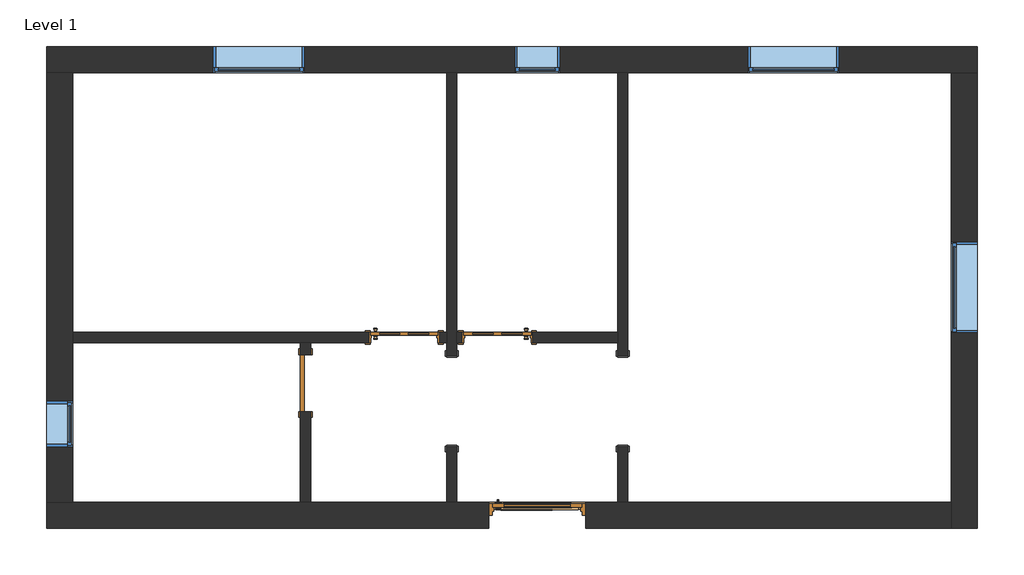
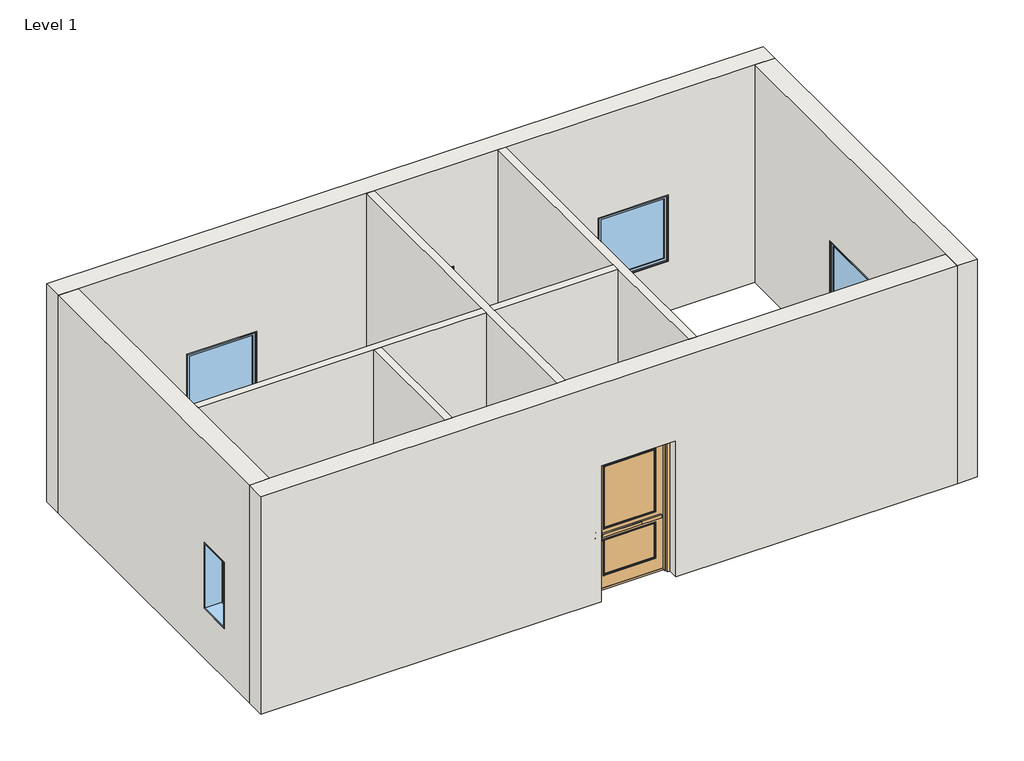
# One storey: 8 walls, 5 windows, 4 doors, 2 proxies.
"""IFC4 building model written with IfcOpenShell, lengths in millimetres."""

from ifc_helpers import new_model, si_unit, frame, origin, place, context, project, spatial, polyline, outline, extrude, faceted_brep, transform, mapped, element, save
from components import m_passage_opening_cased_1220_x_2134_mm_87a8d9c2, m_door_exterior_single_two_lite_1200_x_2400mm_30e12bfc, m_door_interior_single_4_panel_wood_900_x_2100mm_1f4ed184, m_door_interior_single_4_panel_wood_900_x_2100mm_40914eee, m_single_flush_0762_x_2134mm_0d89e411, m_fixed_0610_x_1220mm_2c28ef1d, m_fixed_1220_x_1220_e08ff7af

model = new_model("IFC4")

# Units and contexts
model_context = context("Model", 3, world=origin())
ifc_project = project(units=[si_unit("LENGTHUNIT", "METRE", prefix="MILLI")], contexts=[model_context])

# Site, building, storey
site = spatial("IfcSite", under=ifc_project)
building = spatial("IfcBuilding", under=site)
storey = spatial("IfcBuildingStorey", under=building, Name="Level 1", Elevation=0.0)

# Proxies
placement = place(None, origin())
m_passage_opening_cased_1220_x_2134_mm_shape = m_passage_opening_cased_1220_x_2134_mm_87a8d9c2(model_context)
element("IfcBuildingElementProxy", 1, Name="M_Passage Opening-Cased : 1220 x 2134 mm", ObjectType="M_Passage Opening-Cased : 1220 x 2134 mm", at=placement, inside=storey, context=model_context, shape_type="MappedRepresentation", body=[
    mapped(m_passage_opening_cased_1220_x_2134_mm_shape, transform((-10841.0930086, 9462.255705, 0.0), x_axis=(0.0, 1.0, 0.0), y_axis=(-1.0, 0.0, 0.0), z_axis=(0.0, 0.0, 1.0))),
])
element("IfcBuildingElementProxy", 2, Name="M_Passage Opening-Cased : 1220 x 2134 mm", ObjectType="M_Passage Opening-Cased : 1220 x 2134 mm", at=placement, inside=storey, context=model_context, shape_type="MappedRepresentation", body=[
    mapped(m_passage_opening_cased_1220_x_2134_mm_shape, transform((-13127.0930086, 9445.8783915, 0.0), x_axis=(0.0, -1.0, 0.0), y_axis=(1.0, 0.0, 0.0), z_axis=(0.0, 0.0, 1.0))),
])

# Doors
m_door_exterior_single_two_lite_1200_x_2400mm_shape = m_door_exterior_single_two_lite_1200_x_2400mm_30e12bfc(model_context)
element("IfcDoor", 3, ObjectType="M_Door-Exterior-Single-Two_Lite : 1200 x 2400mm", at=placement, inside=storey, context=model_context, shape_type="MappedRepresentation", body=[
    mapped(m_door_exterior_single_two_lite_1200_x_2400mm_shape, transform((-11984.0930086, 7923.7170483, 0.0), x_axis=(1.0, 0.0, 0.0), y_axis=(0.0, 1.0, 0.0), z_axis=(0.0, 0.0, 1.0))),
])
m_door_interior_single_4_panel_wood_900_x_2100mm_shape = m_door_interior_single_4_panel_wood_900_x_2100mm_1f4ed184(model_context)
element("IfcDoor", 4, ObjectType="M_Door-Interior-Single-4_Panel-Wood : 900 x 2100mm", at=placement, inside=storey, context=model_context, shape_type="MappedRepresentation", body=[
    mapped(m_door_interior_single_4_panel_wood_900_x_2100mm_shape, transform((-12518.0930086, 10309.9920483, 0.0), x_axis=(-1.0, 0.0, 0.0), y_axis=(0.0, -1.0, 0.0), z_axis=(0.0, 0.0, 1.0))),
])
m_door_interior_single_4_panel_wood_900_x_2100mm_2_shape = m_door_interior_single_4_panel_wood_900_x_2100mm_40914eee(model_context)
element("IfcDoor", 5, ObjectType="M_Door-Interior-Single-4_Panel-Wood : 900 x 2100mm", at=placement, inside=storey, context=model_context, shape_type="MappedRepresentation", body=[
    mapped(m_door_interior_single_4_panel_wood_900_x_2100mm_2_shape, transform((-13766.0930086, 10309.9920483, 0.0), x_axis=(1.0, 0.0, 0.0), y_axis=(0.0, 1.0, 0.0), z_axis=(0.0, 0.0, 1.0))),
])
m_single_flush_0762_x_2134mm_shape = m_single_flush_0762_x_2134mm_0d89e411(model_context)
element("IfcDoor", 6, ObjectType="M_Single-Flush : 0762 x 2134mm", at=placement, inside=storey, context=model_context, shape_type="MappedRepresentation", body=[
    mapped(m_single_flush_0762_x_2134mm_shape, transform((-15086.0930086, 9696.8170483, 0.0), x_axis=(0.0, 1.0, 0.0), y_axis=(-1.0, 0.0, 0.0), z_axis=(0.0, 0.0, 1.0))),
])

# Walls
element("IfcWall", 7, ObjectType="Exterior - Brick on Mtl. Stud", at=placement, inside=storey, context=model_context, shape_type="Brep", body=[
    faceted_brep([(-18551.8430086, 13851.0670483, 0.0), (-18201.8430086, 13851.0670483, 0.0), (-13194.8430086, 13851.0670483, 0.0), (-13059.3430086, 13851.0670483, 0.0), (-10908.8430086, 13851.0670483, 0.0), (-10773.3430086, 13851.0670483, 0.0), (-6444.0930086, 13851.0670483, 0.0), (-6094.0930086, 13851.0670483, 0.0), (-6094.0930086, 13851.0670483, 4000.0), (-6444.0930086, 13851.0670483, 4000.0), (-10773.3430086, 13851.0670483, 4000.0), (-10908.8430086, 13851.0670483, 4000.0), (-13059.3430086, 13851.0670483, 4000.0), (-13194.8430086, 13851.0670483, 4000.0), (-18201.8430086, 13851.0670483, 4000.0), (-18551.8430086, 13851.0670483, 4000.0), (-11679.0930086, 13851.0670483, 915.0), (-12289.0930086, 13851.0670483, 915.0), (-12289.0930086, 13851.0670483, 2135.0), (-11679.0930086, 13851.0670483, 2135.0), (-15099.8430086, 13851.0670483, 915.0), (-16319.8430086, 13851.0670483, 915.0), (-16319.8430086, 13851.0670483, 2135.0), (-15099.8430086, 13851.0670483, 2135.0), (-7945.0930086, 13851.0670483, 915.0), (-9165.0930086, 13851.0670483, 915.0), (-9165.0930086, 13851.0670483, 2135.0), (-7945.0930086, 13851.0670483, 2135.0), (-18551.8430086, 14201.0670483, 0.0), (-18551.8430086, 14201.0670483, 4000.0), (-6094.0930086, 14201.0670483, 4000.0), (-6094.0930086, 14201.0670483, 0.0), (-11679.0930086, 14201.0670483, 915.0), (-11679.0930086, 14201.0670483, 2135.0), (-12289.0930086, 14201.0670483, 2135.0), (-12289.0930086, 14201.0670483, 915.0), (-15099.8430086, 14201.0670483, 915.0), (-15099.8430086, 14201.0670483, 2135.0), (-16319.8430086, 14201.0670483, 2135.0), (-16319.8430086, 14201.0670483, 915.0), (-7945.0930086, 14201.0670483, 915.0), (-7945.0930086, 14201.0670483, 2135.0), (-9165.0930086, 14201.0670483, 2135.0), (-9165.0930086, 14201.0670483, 915.0)], [[[0, 1, 2, 3, 4, 5, 6, 7, 8, 9, 10, 11, 12, 13, 14, 15], [16, 17, 18, 19], [20, 21, 22, 23], [24, 25, 26, 27]], [[28, 29, 30, 31], [32, 33, 34, 35], [36, 37, 38, 39], [40, 41, 42, 43]], [[7, 6, 5, 4, 3, 2, 1, 0, 28, 31]], [[15, 14, 13, 12, 11, 10, 9, 8, 30, 29]], [[8, 7, 31, 30]], [[0, 15, 29, 28]], [[33, 32, 16, 19]], [[34, 33, 19, 18]], [[35, 34, 18, 17]], [[32, 35, 17, 16]], [[37, 36, 20, 23]], [[38, 37, 23, 22]], [[39, 38, 22, 21]], [[36, 39, 21, 20]], [[41, 40, 24, 27]], [[42, 41, 27, 26]], [[43, 42, 26, 25]], [[40, 43, 25, 24]]]),
])
element("IfcWall", 8, ObjectType="Exterior - Brick on Mtl. Stud", at=placement, inside=storey, context=model_context, shape_type="Brep", body=[
    faceted_brep([(-6444.0930086, 13851.0670483, 0.0), (-6444.0930086, 8105.0670483, 0.0), (-6444.0930086, 7755.0670483, 0.0), (-6444.0930086, 7755.0670483, 4000.0), (-6444.0930086, 8105.0670483, 4000.0), (-6444.0930086, 13851.0670483, 4000.0), (-6444.0930086, 10368.0670483, 915.0), (-6444.0930086, 11588.0670483, 915.0), (-6444.0930086, 11588.0670483, 2135.0), (-6444.0930086, 10368.0670483, 2135.0), (-6094.0930086, 13851.0670483, 0.0), (-6094.0930086, 13851.0670483, 4000.0), (-6094.0930086, 7755.0670483, 4000.0), (-6094.0930086, 7755.0670483, 0.0), (-6094.0930086, 10368.0670483, 915.0), (-6094.0930086, 10368.0670483, 2135.0), (-6094.0930086, 11588.0670483, 2135.0), (-6094.0930086, 11588.0670483, 915.0)], [[[0, 1, 2, 3, 4, 5], [6, 7, 8, 9]], [[10, 11, 12, 13], [14, 15, 16, 17]], [[2, 1, 0, 10, 13]], [[5, 4, 3, 12, 11]], [[0, 5, 11, 10]], [[3, 2, 13, 12]], [[15, 14, 6, 9]], [[16, 15, 9, 8]], [[17, 16, 8, 7]], [[14, 17, 7, 6]]]),
])
element("IfcWall", 9, ObjectType="Exterior - Brick on Mtl. Stud", at=placement, inside=storey, context=model_context, shape_type="Brep", body=[
    faceted_brep([(-18551.8430086, 8105.0670483, 4000.0), (-18201.8430086, 8105.0670483, 4000.0), (-15153.8430086, 8105.0670483, 4000.0), (-15018.3430086, 8105.0670483, 4000.0), (-13194.8430086, 8105.0670483, 4000.0), (-13059.3430086, 8105.0670483, 4000.0), (-10908.8430086, 8105.0670483, 4000.0), (-10773.3430086, 8105.0670483, 4000.0), (-6444.0930086, 8105.0670483, 4000.0), (-6444.0930086, 8105.0670483, 0.0), (-10773.3430086, 8105.0670483, 0.0), (-10908.8430086, 8105.0670483, 0.0), (-11334.0930086, 8105.0670483, 0.0), (-11334.0930086, 8105.0670483, 2500.0), (-12634.0930086, 8105.0670483, 2500.0), (-12634.0930086, 8105.0670483, 0.0), (-13059.3430086, 8105.0670483, 0.0), (-13194.8430086, 8105.0670483, 0.0), (-15018.3430086, 8105.0670483, 0.0), (-15153.8430086, 8105.0670483, 0.0), (-18201.8430086, 8105.0670483, 0.0), (-18551.8430086, 8105.0670483, 0.0), (-6444.0930086, 7755.0670483, 4000.0), (-18551.8430086, 7755.0670483, 4000.0), (-18551.8430086, 7755.0670483, 0.0), (-12634.0930086, 7755.0670483, 0.0), (-12634.0930086, 7755.0670483, 2500.0), (-11334.0930086, 7755.0670483, 2500.0), (-11334.0930086, 7755.0670483, 0.0), (-6444.0930086, 7755.0670483, 0.0)], [[[0, 1, 2, 3, 4, 5, 6, 7, 8, 9, 10, 11, 12, 13, 14, 15, 16, 17, 18, 19, 20, 21]], [[22, 23, 24, 25, 26, 27, 28, 29]], [[9, 29, 28, 12, 11, 10]], [[24, 21, 20, 19, 18, 17, 16, 15, 25]], [[8, 7, 6, 5, 4, 3, 2, 1, 0, 23, 22]], [[9, 8, 22, 29]], [[0, 21, 24, 23]], [[27, 13, 12, 28]], [[13, 27, 26, 14]], [[14, 26, 25, 15]]]),
])
element("IfcWall", 10, ObjectType="Exterior - Brick on Mtl. Stud", at=placement, inside=storey, context=model_context, shape_type="Brep", body=[
    faceted_brep([(-18201.8430086, 8105.0670483, 0.0), (-18201.8430086, 10239.0670483, 0.0), (-18201.8430086, 10374.5670483, 0.0), (-18201.8430086, 13851.0670483, 0.0), (-18201.8430086, 13851.0670483, 4000.0), (-18201.8430086, 10374.5670483, 4000.0), (-18201.8430086, 10239.0670483, 4000.0), (-18201.8430086, 8105.0670483, 4000.0), (-18201.8430086, 9455.0670483, 915.0), (-18201.8430086, 8845.0670483, 915.0), (-18201.8430086, 8845.0670483, 2135.0), (-18201.8430086, 9455.0670483, 2135.0), (-18551.8430086, 8105.0670483, 0.0), (-18551.8430086, 8105.0670483, 4000.0), (-18551.8430086, 13851.0670483, 4000.0), (-18551.8430086, 13851.0670483, 0.0), (-18551.8430086, 9455.0670483, 915.0), (-18551.8430086, 9455.0670483, 2135.0), (-18551.8430086, 8845.0670483, 2135.0), (-18551.8430086, 8845.0670483, 915.0)], [[[0, 1, 2, 3, 4, 5, 6, 7], [8, 9, 10, 11]], [[12, 13, 14, 15], [16, 17, 18, 19]], [[3, 2, 1, 0, 12, 15]], [[7, 6, 5, 4, 14, 13]], [[0, 7, 13, 12]], [[4, 3, 15, 14]], [[17, 16, 8, 11]], [[18, 17, 11, 10]], [[19, 18, 10, 9]], [[16, 19, 9, 8]]]),
])
element("IfcWall", 11, ObjectType="Interior - 135mm Partition (2-hr)", at=placement, inside=storey, context=model_context, shape_type="Brep", body=[
    faceted_brep([(-10908.8430086, 13851.0670483, 0.0), (-10908.8430086, 10374.5670483, 0.0), (-10908.8430086, 10239.0670483, 0.0), (-10908.8430086, 10064.0670483, 0.0), (-10908.8430086, 10064.0670483, 2134.0), (-10908.8430086, 8844.0670483, 2134.0), (-10908.8430086, 8844.0670483, 0.0), (-10908.8430086, 8105.0670483, 0.0), (-10908.8430086, 8105.0670483, 4000.0), (-10908.8430086, 10239.0670483, 4000.0), (-10908.8430086, 10374.5670483, 4000.0), (-10908.8430086, 13851.0670483, 4000.0), (-10773.3430086, 10064.0670483, 2134.0), (-10773.3430086, 10064.0670483, 0.0), (-10773.3430086, 13851.0670483, 0.0), (-10773.3430086, 13851.0670483, 4000.0), (-10773.3430086, 8105.0670483, 4000.0), (-10773.3430086, 8105.0670483, 0.0), (-10773.3430086, 8844.0670483, 0.0), (-10773.3430086, 8844.0670483, 2134.0)], [[[0, 1, 2, 3, 4, 5, 6, 7, 8, 9, 10, 11]], [[12, 13, 14, 15, 16, 17, 18, 19]], [[18, 17, 7, 6]], [[14, 13, 3, 2, 1, 0]], [[11, 10, 9, 8, 16, 15]], [[0, 11, 15, 14]], [[8, 7, 17, 16]], [[6, 5, 19, 18]], [[4, 3, 13, 12]], [[5, 4, 12, 19]]]),
])
element("IfcWall", 12, ObjectType="Interior - 135mm Partition (2-hr)", at=placement, inside=storey, context=model_context, shape_type="Brep", body=[
    faceted_brep([(-13194.8430086, 8105.0670483, 4000.0), (-13194.8430086, 10239.0670483, 4000.0), (-13194.8430086, 10374.5670483, 4000.0), (-13194.8430086, 13851.0670483, 4000.0), (-13194.8430086, 13851.0670483, 0.0), (-13194.8430086, 10374.5670483, 0.0), (-13194.8430086, 10239.0670483, 0.0), (-13194.8430086, 10064.0670483, 0.0), (-13194.8430086, 10064.0670483, 2134.0), (-13194.8430086, 8844.0670483, 2134.0), (-13194.8430086, 8844.0670483, 0.0), (-13194.8430086, 8105.0670483, 0.0), (-13059.3430086, 13851.0670483, 4000.0), (-13059.3430086, 10374.5670483, 4000.0), (-13059.3430086, 10239.0670483, 4000.0), (-13059.3430086, 8105.0670483, 4000.0), (-13059.3430086, 8105.0670483, 0.0), (-13059.3430086, 8844.0670483, 0.0), (-13059.3430086, 8844.0670483, 2134.0), (-13059.3430086, 10064.0670483, 2134.0), (-13059.3430086, 10064.0670483, 0.0), (-13059.3430086, 10239.0670483, 0.0), (-13059.3430086, 10374.5670483, 0.0), (-13059.3430086, 13851.0670483, 0.0)], [[[0, 1, 2, 3, 4, 5, 6, 7, 8, 9, 10, 11]], [[12, 13, 14, 15, 16, 17, 18, 19, 20, 21, 22, 23]], [[4, 23, 22, 21, 20, 7, 6, 5]], [[16, 11, 10, 17]], [[3, 2, 1, 0, 15, 14, 13, 12]], [[4, 3, 12, 23]], [[0, 11, 16, 15]], [[19, 8, 7, 20]], [[9, 18, 17, 10]], [[8, 19, 18, 9]]]),
])
element("IfcWall", 13, ObjectType="Interior - 135mm Partition (2-hr)", at=placement, inside=storey, context=model_context, shape_type="Brep", body=[
    faceted_brep([(-18201.8430086, 10239.0670483, 4000.0), (-18201.8430086, 10239.0670483, 0.0), (-15153.8430086, 10239.0670483, 0.0), (-15018.3430086, 10239.0670483, 0.0), (-14241.0930086, 10239.0670483, 0.0), (-14241.0930086, 10239.0670483, 2125.0), (-13291.0930086, 10239.0670483, 2125.0), (-13291.0930086, 10239.0670483, 0.0), (-13194.8430086, 10239.0670483, 0.0), (-13194.8430086, 10239.0670483, 4000.0), (-15018.3430086, 10239.0670483, 4000.0), (-15153.8430086, 10239.0670483, 4000.0), (-18201.8430086, 10374.5670483, 0.0), (-18201.8430086, 10374.5670483, 4000.0), (-13194.8430086, 10374.5670483, 4000.0), (-13194.8430086, 10374.5670483, 0.0), (-13291.0930086, 10374.5670483, 0.0), (-13291.0930086, 10374.5670483, 2125.0), (-14241.0930086, 10374.5670483, 2125.0), (-14241.0930086, 10374.5670483, 0.0)], [[[0, 1, 2, 3, 4, 5, 6, 7, 8, 9, 10, 11]], [[12, 13, 14, 15, 16, 17, 18, 19]], [[1, 12, 19, 4, 3, 2]], [[7, 16, 15, 8]], [[13, 0, 11, 10, 9, 14]], [[1, 0, 13, 12]], [[9, 8, 15, 14]], [[6, 17, 16, 7]], [[17, 6, 5, 18]], [[18, 5, 4, 19]]]),
    faceted_brep([(-10908.8430086, 10239.0670483, 0.0), (-10908.8430086, 10239.0670483, 4000.0), (-13059.3430086, 10239.0670483, 4000.0), (-13059.3430086, 10239.0670483, 0.0), (-12993.0930086, 10239.0670483, 0.0), (-12993.0930086, 10239.0670483, 2125.0), (-12043.0930086, 10239.0670483, 2125.0), (-12043.0930086, 10239.0670483, 0.0), (-10908.8430086, 10374.5670483, 4000.0), (-10908.8430086, 10374.5670483, 0.0), (-12043.0930086, 10374.5670483, 0.0), (-12043.0930086, 10374.5670483, 2125.0), (-12993.0930086, 10374.5670483, 2125.0), (-12993.0930086, 10374.5670483, 0.0), (-13059.3430086, 10374.5670483, 0.0), (-13059.3430086, 10374.5670483, 4000.0)], [[[0, 1, 2, 3, 4, 5, 6, 7]], [[8, 9, 10, 11, 12, 13, 14, 15]], [[9, 0, 7, 10]], [[13, 4, 3, 14]], [[1, 8, 15, 2]], [[1, 0, 9, 8]], [[3, 2, 15, 14]], [[5, 4, 13, 12]], [[6, 5, 12, 11]], [[7, 6, 11, 10]]]),
])
element("IfcWall", 14, ObjectType="Interior - 135mm Partition (2-hr)", at=placement, inside=storey, context=model_context, shape_type="SweptSolid", body=[
    extrude(outline(polyline([(10239.0670483, 0.0), (10077.8170483, 0.0), (10077.8170483, 2134.0), (9315.8170483, 2134.0), (9315.8170483, 0.0), (8105.0670483, 0.0), (8105.0670483, 4000.0), (10239.0670483, 4000.0), (10239.0670483, 0.0)])), frame((-15153.8430086, 0.0, 0.0), z_axis=(1.0, 0.0, 0.0), x_axis=(0.0, 1.0, 0.0)), (0.0, 0.0, 1.0), 135.5),
])

# Windows
m_fixed_0610_x_1220mm_shape = m_fixed_0610_x_1220mm_2c28ef1d(model_context)
element("IfcWindow", 15, ObjectType="M_Fixed : 0610 x 1220mm", at=placement, inside=storey, context=model_context, shape_type="MappedRepresentation", body=[
    mapped(m_fixed_0610_x_1220mm_shape, transform((-11984.0930086, 14039.0670483, 0.0), x_axis=(-1.0, 0.0, 0.0), y_axis=(0.0, -1.0, 0.0), z_axis=(0.0, 0.0, 1.0))),
])
element("IfcWindow", 16, ObjectType="M_Fixed : 0610 x 1220mm", at=placement, inside=storey, context=model_context, shape_type="MappedRepresentation", body=[
    mapped(m_fixed_0610_x_1220mm_shape, transform((-18389.8430086, 9150.0670483, 0.0), x_axis=(0.0, -1.0, 0.0), y_axis=(1.0, 0.0, 0.0), z_axis=(0.0, 0.0, 1.0))),
])
m_fixed_1220_x_1220_shape = m_fixed_1220_x_1220_e08ff7af(model_context)
element("IfcWindow", 17, ObjectType="M_Fixed : 1220 x 1220", at=placement, inside=storey, context=model_context, shape_type="MappedRepresentation", body=[
    mapped(m_fixed_1220_x_1220_shape, transform((-15709.8430086, 14039.0670483, 0.0), x_axis=(-1.0, 0.0, 0.0), y_axis=(0.0, -1.0, 0.0), z_axis=(0.0, 0.0, 1.0))),
])
element("IfcWindow", 18, ObjectType="M_Fixed : 1220 x 1220", at=placement, inside=storey, context=model_context, shape_type="MappedRepresentation", body=[
    mapped(m_fixed_1220_x_1220_shape, transform((-8555.0930086, 14039.0670483, 0.0), x_axis=(-1.0, 0.0, 0.0), y_axis=(0.0, -1.0, 0.0), z_axis=(0.0, 0.0, 1.0))),
])
element("IfcWindow", 19, ObjectType="M_Fixed : 1220 x 1220", at=placement, inside=storey, context=model_context, shape_type="MappedRepresentation", body=[
    mapped(m_fixed_1220_x_1220_shape, transform((-6256.0930086, 10978.0670483, 0.0), x_axis=(0.0, 1.0, 0.0), y_axis=(-1.0, 0.0, 0.0), z_axis=(0.0, 0.0, 1.0))),
])

save(model, "model.ifc")
